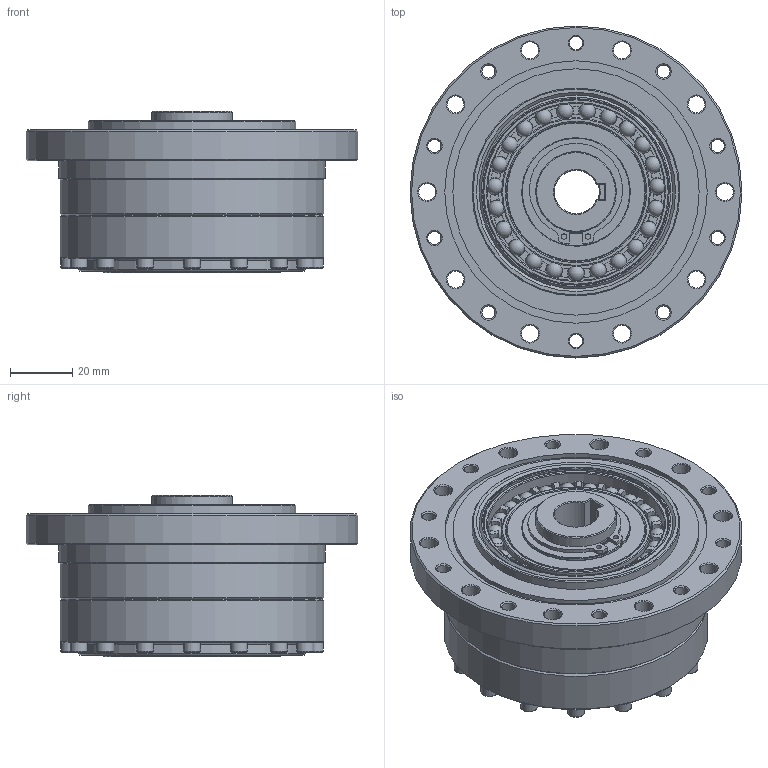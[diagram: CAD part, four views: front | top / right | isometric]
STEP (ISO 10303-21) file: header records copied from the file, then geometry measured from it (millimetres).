
FILE_DESCRIPTION(/* description */ (''),/* implementation_level */ '2;1');
FILE_NAME(/* name */ 'LSG-25-XX-U-II-φ14.stp',/* time_stamp */ '2023-06-29T09:43:37+08:00',/* author */ (''),/* organization */ (''),/* preprocessor_version */ 'ST-DEVELOPER v16.7',/* originating_system */ 'SIEMENS PLM Software NX 12.0',/* authorisation */ '');
FILE_SCHEMA (('AUTOMOTIVE_DESIGN { 1 0 10303 214 3 1 1 1 }'));
Length unit declared in the file: millimetre
Products named in the file (19): EB456009-25KC-46; EB456009-25KE-01; TC-58x70x5; O-66x1; 轴用弹性挡圈φ26; GB-T70.1-2000,M3x20; GB-T70.1-2000,M6x20; 销子3x10; 铜垫圈26.5x35x1; CS-25-00-02; CS-25-00-04; CSG-25-00-01-K14; CS-25-XX-03; 柔轮垫块LSS-25; 柔轮LSS-25; 刚轮LSS-25; EB456009-25KE; 交叉轴承LSS-25; LSG-25-XX-U-II-φ14
Assembly tree (43 placements, depth 3):
  LSG-25-XX-U-II-φ14
    交叉轴承LSS-25
      TC-58x70x5
    刚轮LSS-25
    柔轮LSS-25
    柔轮垫块LSS-25
    EB456009-25KE
      EB456009-25KE-01
      EB456009-25KC-46
    CS-25-XX-03
    CSG-25-00-01-K14
    CS-25-00-04
    CS-25-00-02
    铜垫圈26.5x35x1
    销子3x10  x4
    GB-T70.1-2000,M6x20  x8
    GB-T70.1-2000,M3x20  x16
    轴用弹性挡圈φ26
    O-66x1
Bounding box: 107 x 107 x 52 mm (x, y, z)
Volume: 204268.5 mm3; surface area: 127985.4 mm2
Topology: 67 solids, 67 shells, 1459 faces, 3234 edges, 1912 vertices
Faces by surface type: plane 578, cone 437, cylinder 284, torus 136, sphere 23, revolution 1
Full cylindrical faces by diameter (mm): 1.733 x2, 2.5 x16, 2.874 x16, 3 x12, 3.5 x16, 4.2 x10, 5 x8, 5.5 x26, 5.795 x8, 6.5 x16, 6.8 x8, 10 x8, 15 x1, 20 x3, 24.9 x1, 26 x2, 26.5 x4, 32 x1, 35 x1, 39 x1, 41 x1, 42.8 x1, 44 x1, 45 x2, 47.92 x2, 50 x1, 52.6 x1, 53 x1, 55.3 x1, 55.4 x1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
Entity records: 24217 total; most frequent: CARTESIAN_POINT 5299, DIRECTION 4053, ORIENTED_EDGE 2958, AXIS2_PLACEMENT_3D 1823, EDGE_CURVE 1479, EDGE_LOOP 1470, VERTEX_POINT 1191, FACE_BOUND 1178
